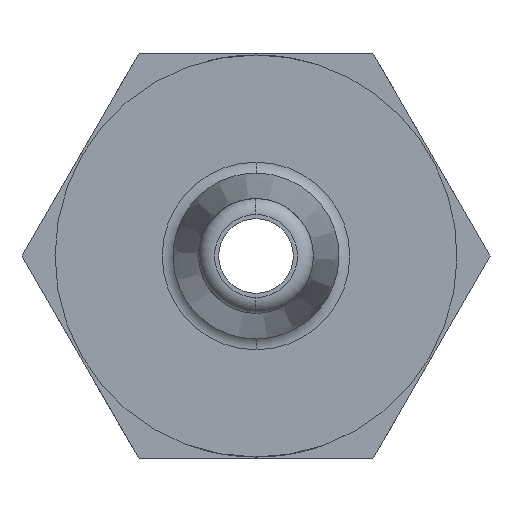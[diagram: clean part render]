
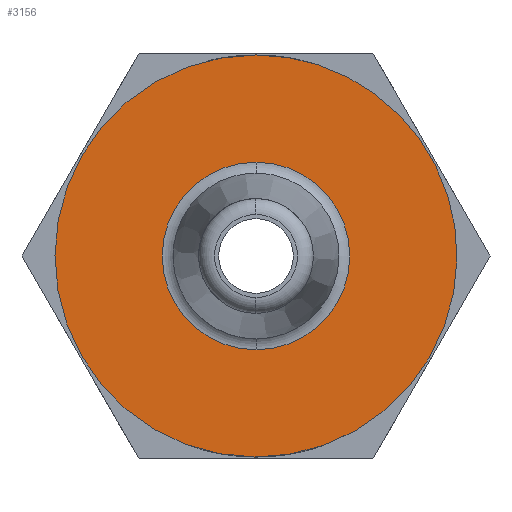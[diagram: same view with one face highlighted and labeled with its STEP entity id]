
A CAD part, left-side view. The second image highlights one B-rep face of the part: STEP entity #3156.
In plain terms, the highlighted planar face has unit normal (-1, 0, 0).
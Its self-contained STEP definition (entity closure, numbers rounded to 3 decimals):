
#68=PLANE('',#3455);
#178=FACE_BOUND('',#515,.T.);
#324=FACE_OUTER_BOUND('',#514,.T.);
#514=EDGE_LOOP('',(#2391,#2392));
#515=EDGE_LOOP('',(#2393,#2394));
#701=CIRCLE('',#3358,3.15);
#702=CIRCLE('',#3359,3.15);
#743=CIRCLE('',#3411,1.469);
#773=CIRCLE('',#3456,1.469);
#1346=VERTEX_POINT('',#5097);
#1347=VERTEX_POINT('',#5099);
#1475=VERTEX_POINT('',#5973);
#1476=VERTEX_POINT('',#5974);
#1684=EDGE_CURVE('',#1347,#1346,#701,.T.);
#1685=EDGE_CURVE('',#1346,#1347,#702,.T.);
#1817=EDGE_CURVE('',#1475,#1476,#743,.T.);
#1867=EDGE_CURVE('',#1476,#1475,#773,.T.);
#2391=ORIENTED_EDGE('',*,*,#1684,.T.);
#2392=ORIENTED_EDGE('',*,*,#1685,.T.);
#2393=ORIENTED_EDGE('',*,*,#1867,.T.);
#2394=ORIENTED_EDGE('',*,*,#1817,.T.);
#3156=ADVANCED_FACE('',(#324,#178),#68,.F.);
#3358=AXIS2_PLACEMENT_3D('',#5100,#3697,#3698);
#3359=AXIS2_PLACEMENT_3D('',#5101,#3699,#3700);
#3411=AXIS2_PLACEMENT_3D('',#5975,#3843,#3844);
#3455=AXIS2_PLACEMENT_3D('',#6075,#3950,#3951);
#3456=AXIS2_PLACEMENT_3D('',#6076,#3952,#3953);
#3697=DIRECTION('center_axis',(-1.,0.,0.));
#3698=DIRECTION('ref_axis',(0.,0.,1.));
#3699=DIRECTION('center_axis',(-1.,0.,0.));
#3700=DIRECTION('ref_axis',(0.,0.,1.));
#3843=DIRECTION('center_axis',(1.,0.,0.));
#3844=DIRECTION('ref_axis',(0.,0.,
1.));
#3950=DIRECTION('center_axis',(1.,0.,0.));
#3951=DIRECTION('ref_axis',(0.,0.,-1.));
#3952=DIRECTION('center_axis',(1.,0.,0.));
#3953=DIRECTION('ref_axis',(0.,0.,-1.));
#5097=CARTESIAN_POINT('',(-6.225,-3.15,-0.03));
#5099=CARTESIAN_POINT('',(-6.225,0.,3.15));
#5100=CARTESIAN_POINT('Origin',(-6.225,0.,0.));
#5101=CARTESIAN_POINT('Origin',(-6.225,0.,0.));
#5973=CARTESIAN_POINT('',(-6.225,0.,1.469));
#5974=CARTESIAN_POINT('',(-6.225,0.,-1.469));
#5975=CARTESIAN_POINT('Origin',(-6.225,0.,0.));
#6075=CARTESIAN_POINT('Origin',(-6.225,-3.188,0.));
#6076=CARTESIAN_POINT('Origin',(-6.225,0.,0.));
